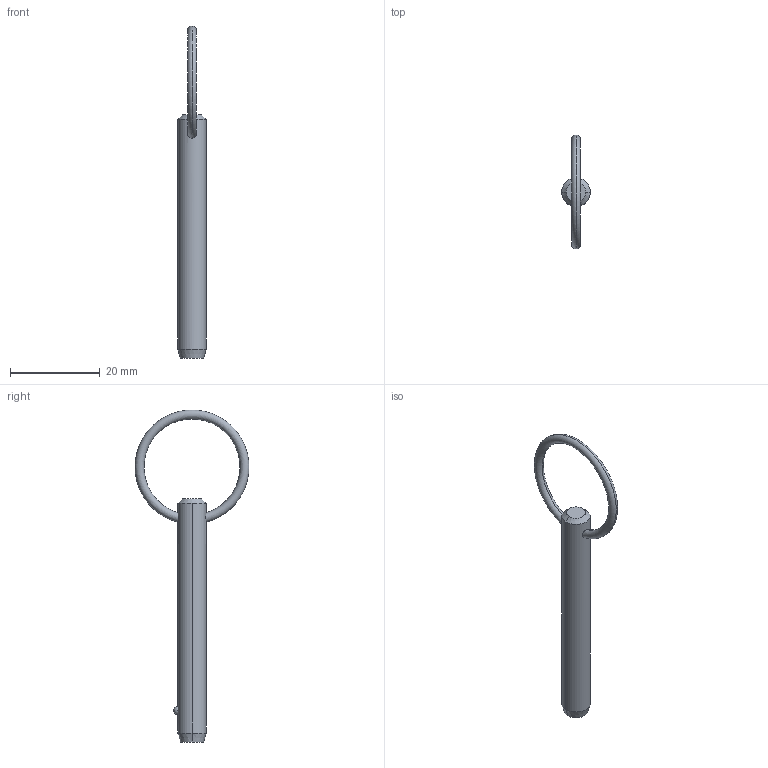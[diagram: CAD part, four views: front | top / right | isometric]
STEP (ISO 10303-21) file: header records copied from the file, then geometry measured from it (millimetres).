
FILE_DESCRIPTION (( 'STEP AP203' ), '1' );
FILE_NAME ('P1250.025-160.step', '2019-07-29T19:41:09', ( '' ), ( '' ), 'SwSTEP 2.0', 'SolidWorks 2017', '' );
FILE_SCHEMA (( 'CONFIG_CONTROL_DESIGN' ));
Length unit declared in the file: millimetre
Products named in the file (1): P1250.025-160
Bounding box: 6.35 x 25.38 x 74.02 mm (x, y, z)
Volume: 1910.1 mm3; surface area: 1538.6 mm2
Topology: 1 solids, 1 shells, 12 faces, 28 edges, 17 vertices
Faces by surface type: cone 4, torus 2, sphere 2, cylinder 2, plane 2
Entity records: 481 total; most frequent: CARTESIAN_POINT 148, DIRECTION 56, ORIENTED_EDGE 48, AXIS2_PLACEMENT_3D 25, EDGE_CURVE 24, EDGE_LOOP 15, VERTEX_POINT 15, ADVANCED_FACE 12
